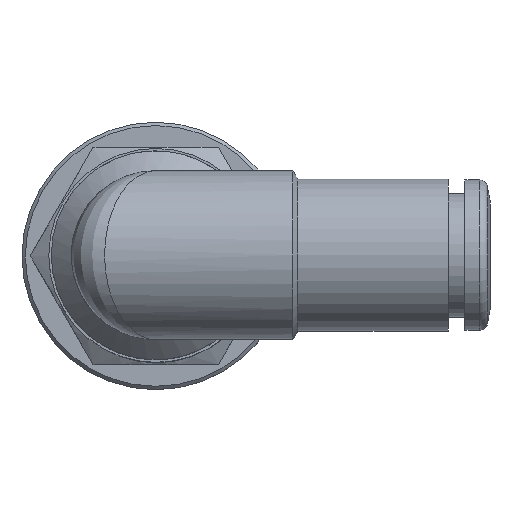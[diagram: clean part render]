
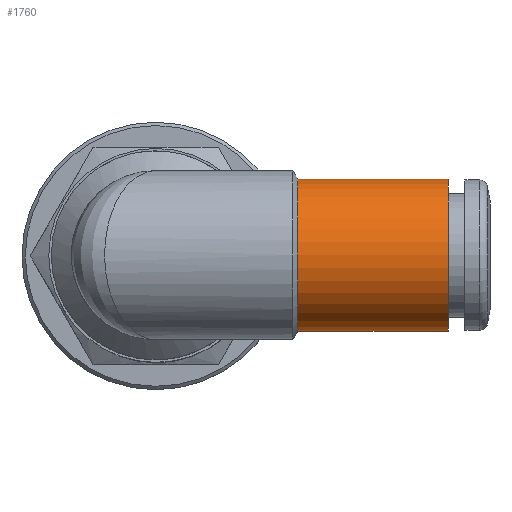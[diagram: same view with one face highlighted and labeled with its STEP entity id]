
A CAD part, top view. The second image highlights one B-rep face of the part: STEP entity #1760.
In plain terms, the highlighted cylindrical face has radius 4.55 mm (diameter 9.1 mm), a full revolution.
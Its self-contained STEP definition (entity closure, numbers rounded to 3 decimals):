
#1760=ADVANCED_FACE('', (#1770,#1780), #1790, .T.);
#5780=AXIS2_PLACEMENT_3D('Ax2Pl3d', #5790, #5800, #5810);
#6740=AXIS2_PLACEMENT_3D('Ax2Pl3d', #6750, #6760, #6770);
#6780=AXIS2_PLACEMENT_3D('Ax2Pl3d', #6790, #6800, #6810);
#5790=CARTESIAN_POINT('HicPkt', (25.248,9.497,
12.079));
#22740=CARTESIAN_POINT('', (25.248,9.497,16.629));
#6750=CARTESIAN_POINT('HicPkt', (16.248,9.497,
12.079));
#22880=CARTESIAN_POINT('', (16.248,9.497,16.629));
#6790=CARTESIAN_POINT('HicPkt', (16.248,9.497,
12.079));
#23730=CIRCLE('Circle', #5780, 4.55);
#23830=CIRCLE('Circle', #6740, 4.55);
#1790=CYLINDRICAL_SURFACE('Zyl', #6780, 4.55);
#5800=DIRECTION('Axis', (-1.,0.,0.))
;
#5810=DIRECTION('RefDirection', (0.,
0.,-1.));
#6760=DIRECTION('Axis', (-1.,0.,0.))
;
#6770=DIRECTION('RefDirection', (0.,
0.,-1.));
#6800=DIRECTION('Axis', (1.,0.,0.));
#6810=DIRECTION('RefDirection', (0.,0.,-1.));
#27630=EDGE_CURVE('', #27640, #27640, #23730, .T.);
#28010=EDGE_CURVE('', #28020, #28020, #23830, .T.);
#30740=EDGE_LOOP('Edge_loop', (#30750));
#30760=EDGE_LOOP('Edge_loop', (#30770));
#1780=FACE_BOUND('', #30760, .T.);
#1770=FACE_OUTER_BOUND('Face_outer_bound', #30740, .T.);
#30750=ORIENTED_EDGE('', *, *, #27630, .T.);
#30770=ORIENTED_EDGE('', *, *, #28010, .F.);
#27640=VERTEX_POINT('', #22740);
#28020=VERTEX_POINT('', #22880);
